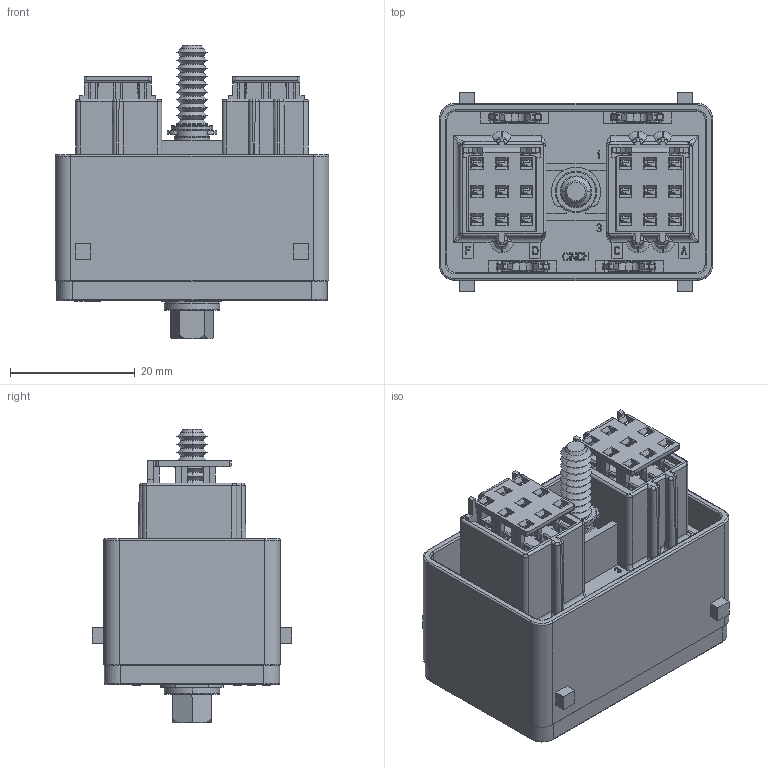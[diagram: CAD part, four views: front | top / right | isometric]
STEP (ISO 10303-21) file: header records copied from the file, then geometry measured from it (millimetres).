
FILE_DESCRIPTION((''),'2;1');
FILE_NAME('5810118023_REV-C_ASM','2010-01-29T',('r.muscroft'),(''),'PRO/ENGINEER BY PARAMETRIC TECHNOLOGY CORPORATION, 2006240','PRO/ENGINEER BY PARAMETRIC TECHNOLOGY CORPORATION, 2006240','');
FILE_SCHEMA(('CONFIG_CONTROL_DESIGN'));
Products named in the file (2): 5810118023_REV-C_IGS; 5810118023_REV-C_ASM
Assembly tree (1 placements, depth 2):
  5810118023_REV-C_ASM
    5810118023_REV-C_IGS
Bounding box: 43.84 x 31.88 x 46.98 mm (x, y, z)
Volume: 21521.4 mm3; surface area: 25630.6 mm2
Topology: 5 solids, 5 shells, 5306 faces, 14155 edges, 8823 vertices
Faces by surface type: plane 3398, cylinder 1010, torus 340, cone 262, sphere 204, bspline 90, extrusion 2
Entity records: 205040 total; most frequent: CARTESIAN_POINT 36121, ORIENTED_EDGE 28310, DIRECTION 26191, EDGE_CURVE 14155, VECTOR 10749, LINE 10747, VERTEX_POINT 8823, AXIS2_PLACEMENT_3D 7721
